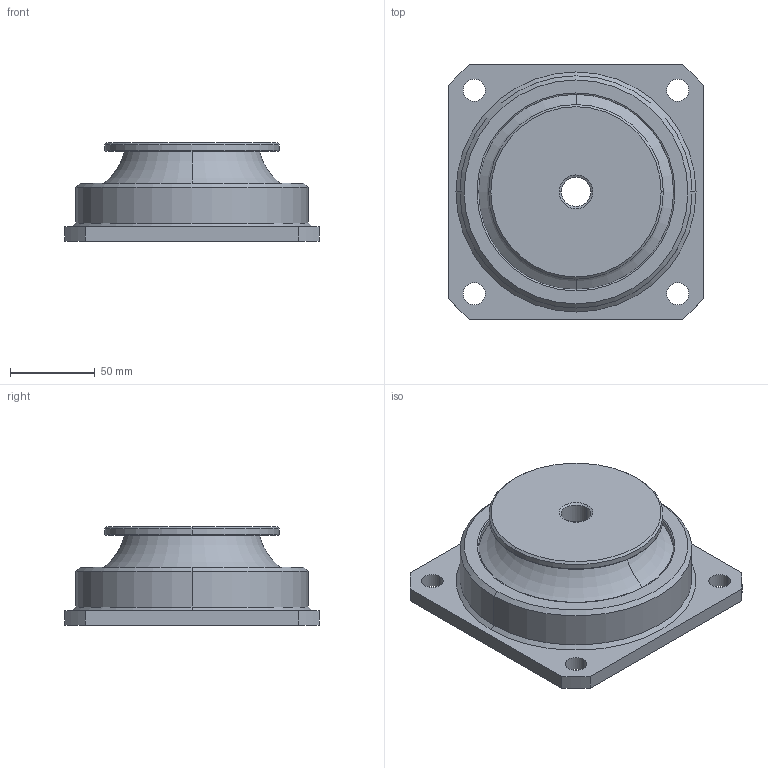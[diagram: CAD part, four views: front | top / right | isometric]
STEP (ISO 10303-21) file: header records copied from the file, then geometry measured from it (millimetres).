
FILE_DESCRIPTION(('STEP AP214'),'1');
FILE_NAME('U:/Inhalte (Daten)/Content neue Seite/CAD Files/EluFlex_150_SF.stp','2014-08-27T14:35:36',(' '),(' '),'Spatial InterOp 3D',' ',' ');
FILE_SCHEMA(('automotive_design'));
Length unit declared in the file: millimetre
Products named in the file (1): 1
Bounding box: 150 x 150 x 58 mm (x, y, z)
Volume: 598161.8 mm3; surface area: 82838.7 mm2
Topology: 1 solids, 3 shells, 73 faces, 183 edges, 117 vertices
Faces by surface type: torus 24, cylinder 24, cone 14, plane 11
Entity records: 2289 total; most frequent: DIRECTION 464, CARTESIAN_POINT 374, ORIENTED_EDGE 366, AXIS2_PLACEMENT_3D 207, EDGE_CURVE 183, CIRCLE 133, VERTEX_POINT 117, EDGE_LOOP 88
